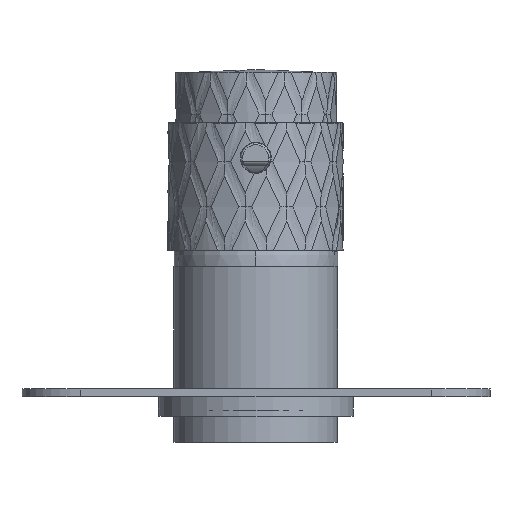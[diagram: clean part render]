
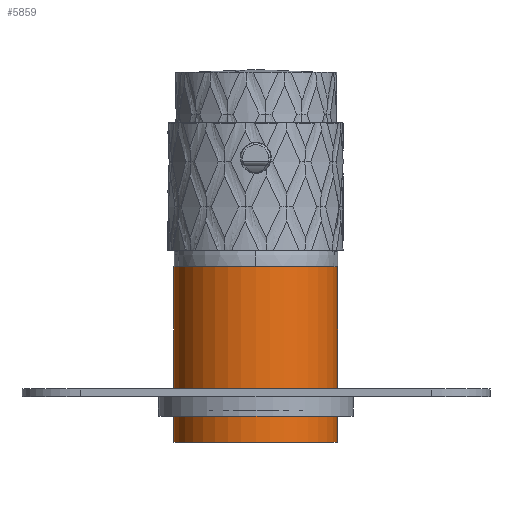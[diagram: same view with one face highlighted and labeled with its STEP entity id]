
A CAD part, front view. The second image highlights one B-rep face of the part: STEP entity #5859.
In plain terms, the highlighted cylindrical face has radius 21 mm (diameter 42 mm), a partial arc.
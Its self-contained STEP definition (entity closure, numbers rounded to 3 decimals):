
#1120 = DIRECTION ( 'NONE',  ( 0., 0., -1. ) ) ;
#1627 = CYLINDRICAL_SURFACE ( 'NONE', #10806, 21. ) ;
#2276 = DIRECTION ( 'NONE',  ( 0., 0., -1. ) ) ;
#2600 = CARTESIAN_POINT ( 'NONE',  ( 0., 0., 14. ) ) ;
#3057 = EDGE_CURVE ( 'NONE', #16778, #13974, #25999, .T. ) ;
#5778 = EDGE_CURVE ( 'NONE', #13974, #49317, #8328, .T. ) ;
#5859 = ADVANCED_FACE ( 'NONE', ( #40996 ), #1627, .T. ) ;
#6173 = CIRCLE ( 'NONE', #14514, 21. ) ;
#8328 = CIRCLE ( 'NONE', #41595, 21. ) ;
#10158 = DIRECTION ( 'NONE',  ( 0., 0., 1. ) ) ;
#10351 = CARTESIAN_POINT ( 'NONE',  ( 0., 0., 59. ) ) ;
#10806 = AXIS2_PLACEMENT_3D ( 'NONE', #45415, #1120, #44902 ) ;
#11075 = CARTESIAN_POINT ( 'NONE',  ( -21., 0., 59. ) ) ;
#11368 = LINE ( 'NONE', #15026, #45541 ) ;
#12842 = VECTOR ( 'NONE', #2276, 1000. ) ;
#12875 = CARTESIAN_POINT ( 'NONE',  ( 21., 0., 14. ) ) ;
#12953 = ORIENTED_EDGE ( 'NONE', *, *, #3057, .T. ) ;
#13974 = VERTEX_POINT ( 'NONE', #50689 ) ;
#14514 = AXIS2_PLACEMENT_3D ( 'NONE', #10351, #49742, #26004 ) ;
#15026 = CARTESIAN_POINT ( 'NONE',  ( 21., 0., 59. ) ) ;
#15177 = CARTESIAN_POINT ( 'NONE',  ( 21., 0., 59. ) ) ;
#16778 = VERTEX_POINT ( 'NONE', #11075 ) ;
#25999 = LINE ( 'NONE', #38002, #12842 ) ;
#26004 = DIRECTION ( 'NONE',  ( 1., 0., 0. ) ) ;
#30690 = DIRECTION ( 'NONE',  ( 0., 0., -1. ) ) ;
#35132 = EDGE_LOOP ( 'NONE', ( #39406, #36620, #12953, #40343 ) ) ;
#36620 = ORIENTED_EDGE ( 'NONE', *, *, #38039, .F. ) ;
#38002 = CARTESIAN_POINT ( 'NONE',  ( -21., 0., 59. ) ) ;
#38039 = EDGE_CURVE ( 'NONE', #16778, #41706, #6173, .T. ) ;
#39406 = ORIENTED_EDGE ( 'NONE', *, *, #47798, .F. ) ;
#40343 = ORIENTED_EDGE ( 'NONE', *, *, #5778, .T. ) ;
#40996 = FACE_OUTER_BOUND ( 'NONE', #35132, .T. ) ;
#41595 = AXIS2_PLACEMENT_3D ( 'NONE', #2600, #10158, #46898 ) ;
#41706 = VERTEX_POINT ( 'NONE', #15177 ) ;
#44902 = DIRECTION ( 'NONE',  ( -1., 0., 0. ) ) ;
#45415 = CARTESIAN_POINT ( 'NONE',  ( 0., 0., 59. ) ) ;
#45541 = VECTOR ( 'NONE', #30690, 1000. ) ;
#46898 = DIRECTION ( 'NONE',  ( 1., 0., 0. ) ) ;
#47798 = EDGE_CURVE ( 'NONE', #41706, #49317, #11368, .T. ) ;
#49317 = VERTEX_POINT ( 'NONE', #12875 ) ;
#49742 = DIRECTION ( 'NONE',  ( 0., 0., 1. ) ) ;
#50689 = CARTESIAN_POINT ( 'NONE',  ( -21., 0., 14. ) ) ;
